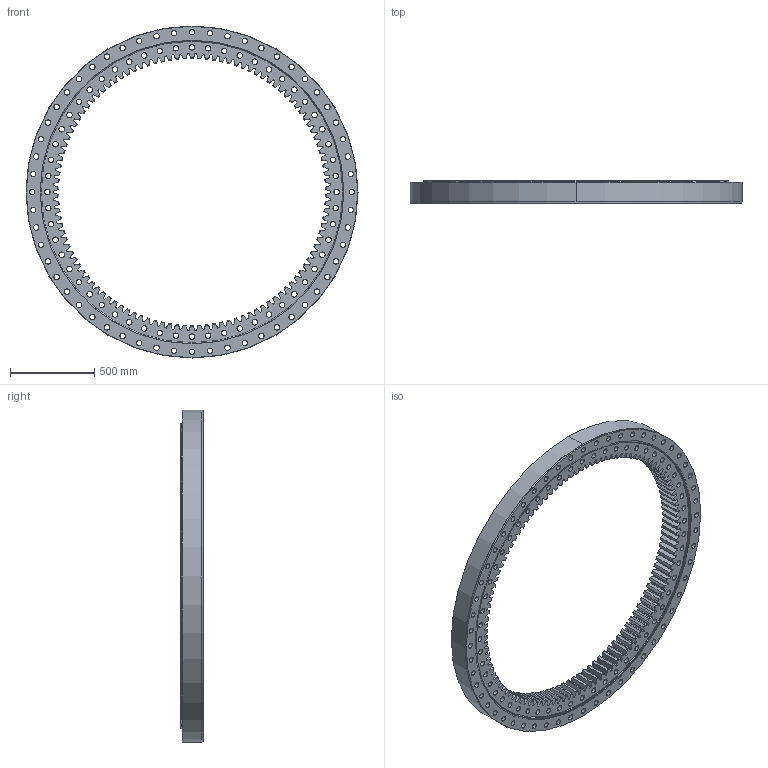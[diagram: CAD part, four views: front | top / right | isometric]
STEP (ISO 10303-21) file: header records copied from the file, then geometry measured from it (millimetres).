
FILE_DESCRIPTION (( 'STEP AP203' ), '1' );
FILE_NAME ('B2235-1-1968AA.STEP', '2026-03-23T08:14:28', ( '' ), ( '' ), 'SwSTEP 2.0', 'SolidWorks 2020', '' );
FILE_SCHEMA (( 'CONFIG_CONTROL_DESIGN' ));
Length unit declared in the file: millimetre
Products named in the file (1): B2235-1-1968AA
Bounding box: 1968 x 134 x 1968 mm (x, y, z)
Volume: 113298544.9 mm3; surface area: 7267559.2 mm2
Topology: 4 solids, 4 shells, 1072 faces, 3166 edges, 2109 vertices
Faces by surface type: plane 471, cylinder 363, cone 238
Entity records: 36950 total; most frequent: CARTESIAN_POINT 8172, ORIENTED_EDGE 6332, DIRECTION 5597, EDGE_CURVE 3166, VERTEX_POINT 2109, AXIS2_PLACEMENT_3D 2042, LINE 1513, VECTOR 1513
